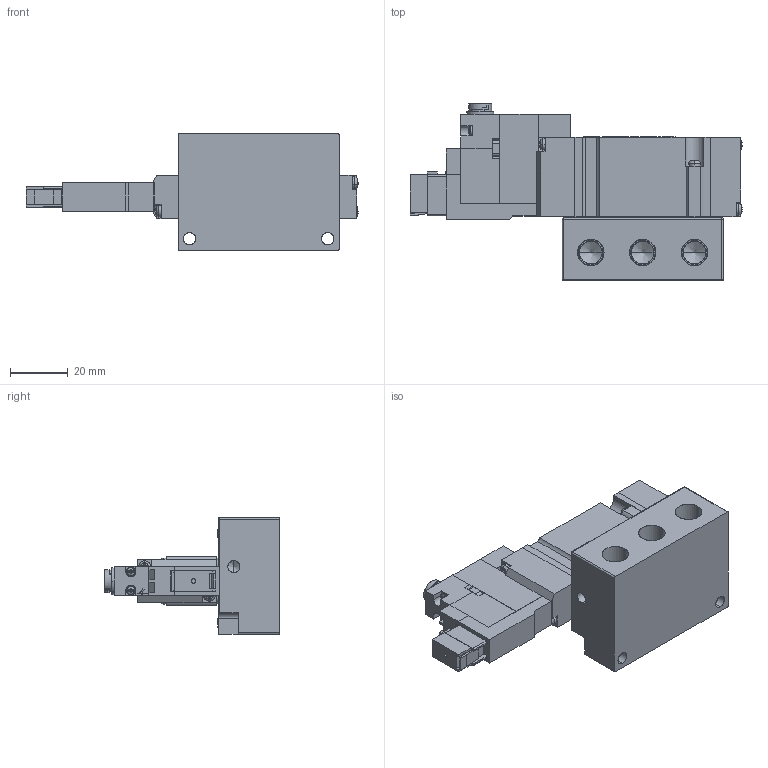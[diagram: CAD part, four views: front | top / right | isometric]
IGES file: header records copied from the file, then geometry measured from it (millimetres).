
Start section: SolidWorks IGES file using analytic representation for surfaces
Global section: file name: D:\Custom\3D繪製\ADEX\A12G\A12GS25#-#-#-E.IGS,1; native system: 5HSolidWorks 2014; preprocessor: SolidWorks 2014; author: Chieh_Lu; date: 150809.155628; units: millimetre
Bounding box: 115.3 x 61.1 x 40.5 mm (x, y, z)
Surface area: 30492.2 mm2 (no closed solid volume)
Topology: 0 solids, 0 shells, 881 faces, 7328 edges, 7294 vertices
Faces by surface type: bspline 602, revolution 279
